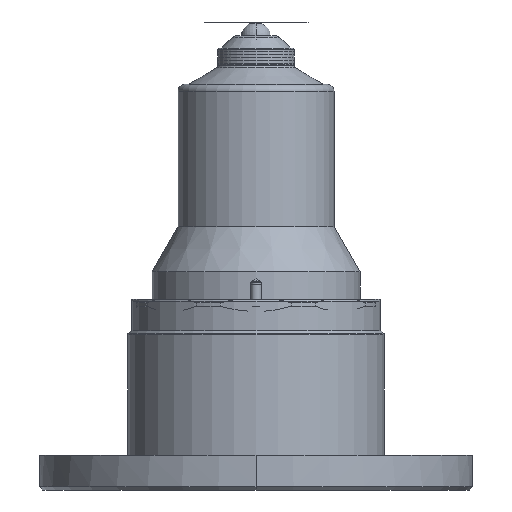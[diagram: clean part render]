
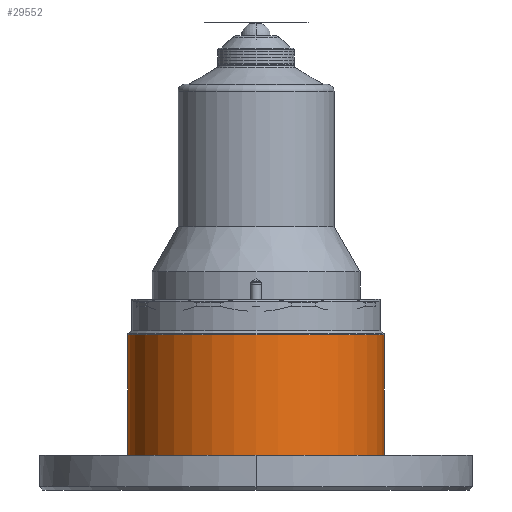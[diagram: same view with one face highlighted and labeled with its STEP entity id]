
A CAD part, front view. The second image highlights one B-rep face of the part: STEP entity #29552.
In plain terms, the highlighted cylindrical face has radius 37 mm (diameter 74 mm), a partial arc.
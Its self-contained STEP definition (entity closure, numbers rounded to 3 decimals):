
#128 = DIRECTION ( 'NONE',  ( 0., 1., 0. ) ) ;
#2000 = FACE_OUTER_BOUND ( 'NONE', #30111, .T. ) ;
#4404 = VERTEX_POINT ( 'NONE', #19399 ) ;
#4910 = CIRCLE ( 'NONE', #10814, 37. ) ;
#6867 = EDGE_CURVE ( 'NONE', #18727, #14398, #19309, .T. ) ;
#7474 = CARTESIAN_POINT ( 'NONE',  ( -37., 0., 35. ) ) ;
#7737 = DIRECTION ( 'NONE',  ( 0., 0., 1. ) ) ;
#7755 = LINE ( 'NONE', #19449, #30815 ) ;
#10389 = DIRECTION ( 'NONE',  ( 0., 0., 1. ) ) ;
#10814 = AXIS2_PLACEMENT_3D ( 'NONE', #27246, #12124, #128 ) ;
#11508 = CARTESIAN_POINT ( 'NONE',  ( 0., 0., 34.793 ) ) ;
#12084 = DIRECTION ( 'NONE',  ( 1., 0., 0. ) ) ;
#12124 = DIRECTION ( 'NONE',  ( 0., 0., 1. ) ) ;
#13634 = EDGE_CURVE ( 'NONE', #36353, #14398, #7755, .T. ) ;
#14398 = VERTEX_POINT ( 'NONE', #30949 ) ;
#14446 = CARTESIAN_POINT ( 'NONE',  ( 37., 0., 0. ) ) ;
#16811 = CARTESIAN_POINT ( 'NONE',  ( -37., 0., 34.793 ) ) ;
#18393 = DIRECTION ( 'NONE',  ( 0., 0., 1. ) ) ;
#18727 = VERTEX_POINT ( 'NONE', #16811 ) ;
#18744 = VECTOR ( 'NONE', #7737, 1000. ) ;
#18920 = CYLINDRICAL_SURFACE ( 'NONE', #31296, 37. ) ;
#19309 = CIRCLE ( 'NONE', #23281, 37. ) ;
#19399 = CARTESIAN_POINT ( 'NONE',  ( -37., 0., 0. ) ) ;
#19449 = CARTESIAN_POINT ( 'NONE',  ( 37., 0., 35. ) ) ;
#23156 = ORIENTED_EDGE ( 'NONE', *, *, #37976, .T. ) ;
#23174 = ORIENTED_EDGE ( 'NONE', *, *, #34701, .F. ) ;
#23281 = AXIS2_PLACEMENT_3D ( 'NONE', #11508, #29656, #35945 ) ;
#26727 = LINE ( 'NONE', #7474, #18744 ) ;
#27246 = CARTESIAN_POINT ( 'NONE',  ( 0., 0., 0. ) ) ;
#29552 = ADVANCED_FACE ( 'NONE', ( #2000 ), #18920, .T. ) ;
#29656 = DIRECTION ( 'NONE',  ( 0., 0., 1. ) ) ;
#30071 = ORIENTED_EDGE ( 'NONE', *, *, #6867, .F. ) ;
#30111 = EDGE_LOOP ( 'NONE', ( #23174, #23156, #37883, #30071 ) ) ;
#30815 = VECTOR ( 'NONE', #10389, 1000. ) ;
#30949 = CARTESIAN_POINT ( 'NONE',  ( 37., 0., 34.793 ) ) ;
#31296 = AXIS2_PLACEMENT_3D ( 'NONE', #36404, #18393, #12084 ) ;
#34701 = EDGE_CURVE ( 'NONE', #4404, #18727, #26727, .T. ) ;
#35945 = DIRECTION ( 'NONE',  ( 1., 0., 0. ) ) ;
#36353 = VERTEX_POINT ( 'NONE', #14446 ) ;
#36404 = CARTESIAN_POINT ( 'NONE',  ( 0., 0., 35. ) ) ;
#37883 = ORIENTED_EDGE ( 'NONE', *, *, #13634, .T. ) ;
#37976 = EDGE_CURVE ( 'NONE', #4404, #36353, #4910, .T. ) ;
